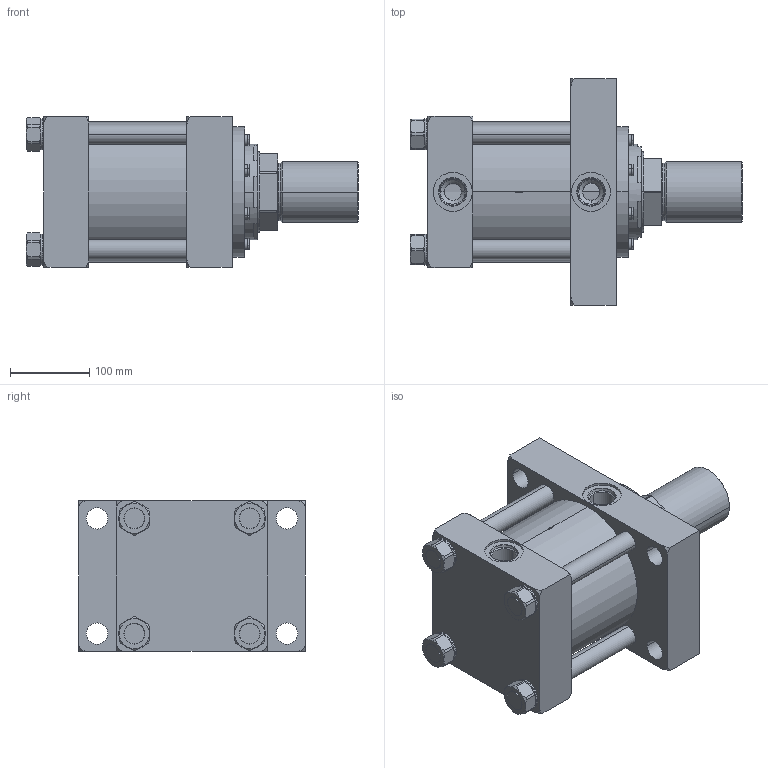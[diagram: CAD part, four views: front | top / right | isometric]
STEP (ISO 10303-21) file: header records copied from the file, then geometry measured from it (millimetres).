
FILE_DESCRIPTION (( 'STEP AP214' ), '1' );
FILE_NAME ('6.00JJ2HHNAT124A2.000.step', '2026-03-26T21:18:45', ( '' ), ( '' ), 'SwSTEP 2.0', 'SolidWorks 2023', '' );
FILE_SCHEMA (( 'AUTOMOTIVE_DESIGN' ));
Length unit declared in the file: inch
Products named in the file (1): 6.00JJ2HHNAT124A2.000
Bounding box: 419.1 x 285.75 x 190.5 mm (x, y, z)
Volume: 8653140.7 mm3; surface area: 883764 mm2
Topology: 40 solids, 40 shells, 1596 faces, 4143 edges, 2638 vertices
Faces by surface type: plane 812, cylinder 513, cone 229, bspline 34, torus 8
Entity records: 73569 total; most frequent: CARTESIAN_POINT 14070, ORIENTED_EDGE 8206, DIRECTION 7873, EDGE_CURVE 4103, AXIS2_PLACEMENT_3D 3033, VERTEX_POINT 2638, LINE 1807, VECTOR 1807
